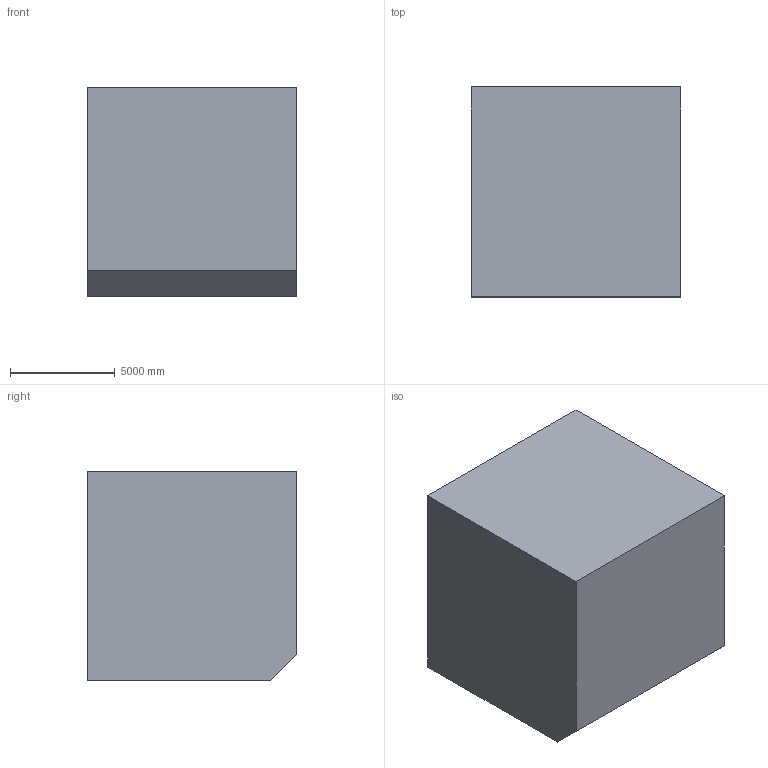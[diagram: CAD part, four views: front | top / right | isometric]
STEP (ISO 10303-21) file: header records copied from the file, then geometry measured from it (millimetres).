
FILE_DESCRIPTION (( 'STEP AP203' ), '1' );
FILE_NAME ('36.STEP', '2022-07-28T13:27:39', ( 'user' ), ( '' ), 'SwSTEP 2.0', 'SolidWorks 2021', '' );
FILE_SCHEMA (( 'CONFIG_CONTROL_DESIGN' ));
Length unit declared in the file: centimetre
Products named in the file (1): 36
Bounding box: 10000 x 10000 x 10000 mm (x, y, z)
Volume: 812052957549.7 mm3; surface area: 701340518.9 mm2
Topology: 1 solids, 1 shells, 12 faces, 27 edges, 18 vertices
Faces by surface type: plane 12
Entity records: 408 total; most frequent: CARTESIAN_POINT 58, ORIENTED_EDGE 54, DIRECTION 53, EDGE_CURVE 27, LINE 27, VECTOR 27, VERTEX_POINT 18, AXIS2_PLACEMENT_3D 13
